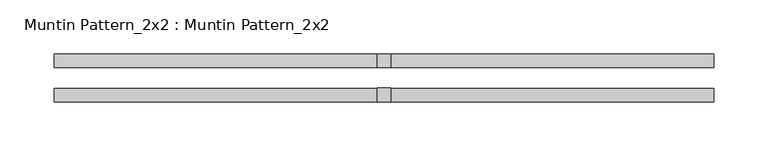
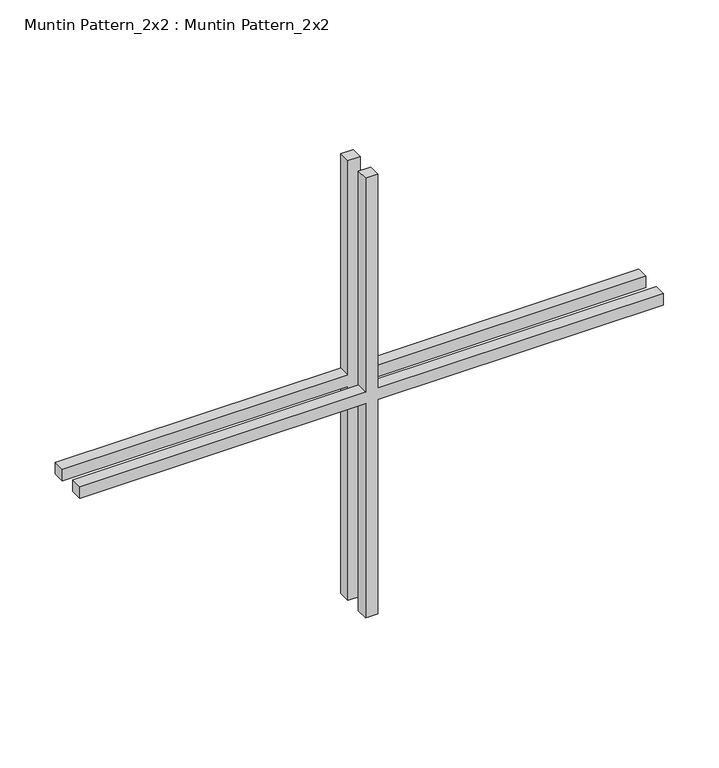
"""IFC4 building model written with IfcOpenShell, lengths in millimetres: proxy geometry, Muntin Pattern_2x2 : Muntin Pattern_2x2."""

from ifc_helpers import new_model, si_unit, frame, origin, place, context, project, spatial, polyline, outline, extrude, source, transform, mapped, element, save


def muntin_pattern_2x2_muntin_pattern_2x2_b8ba09c9(model_context):
    return source(origin(), model_context, "Body", "SweptSolid", [
        extrude(outline(polyline([(249.2375, -6.35), (249.2375, -304.8), (236.5375, -304.8), (236.5375, -6.35), (0.0, -6.35), (0.0, 6.35), (236.5375, 6.35), (236.5375, 304.8), (249.2375, 304.8), (249.2375, 6.35), (485.775, 6.35), (485.775, -6.35), (249.2375, -6.35)])), frame((0.0, 9.525, 0.0), z_axis=(0.0, 1.0, 0.0), x_axis=(0.0, 0.0, 1.0)), (0.0, 0.0, 1.0), 12.7),
        extrude(outline(polyline([(249.2375, -6.35), (249.2375, -304.8), (236.5375, -304.8), (236.5375, -6.35), (0.0, -6.35), (0.0, 6.35), (236.5375, 6.35), (236.5375, 304.8), (249.2375, 304.8), (249.2375, 6.35), (485.775, 6.35), (485.775, -6.35), (249.2375, -6.35)])), frame((0.0, -22.225, 0.0), z_axis=(0.0, 1.0, 0.0), x_axis=(0.0, 0.0, 1.0)), (0.0, 0.0, 1.0), 12.7),
    ])


if __name__ == "__main__":
    model = new_model("IFC4")
    model_context = context("Model", 3, world=origin())
    ifc_project = project(units=[si_unit("LENGTHUNIT", "METRE", prefix="MILLI")], contexts=[model_context])
    site = spatial("IfcSite", under=ifc_project)
    building = spatial("IfcBuilding", under=site)
    placement = place(None, origin())
    muntin_pattern_2x2_muntin_pattern_2x2_shape = muntin_pattern_2x2_muntin_pattern_2x2_b8ba09c9(model_context)
    element("IfcBuildingElementProxy", 1, Name="Muntin Pattern_2x2 : Muntin Pattern_2x2", ObjectType="Muntin Pattern_2x2 : Muntin Pattern_2x2", at=placement, inside=building, context=model_context, shape_type="MappedRepresentation", body=[
        mapped(muntin_pattern_2x2_muntin_pattern_2x2_shape, transform((0.0, 0.0, 0.0), x_axis=(1.0, 0.0, 0.0), y_axis=(0.0, 1.0, 0.0), z_axis=(0.0, 0.0, 1.0))),
    ])
    save(model, "model.ifc")
